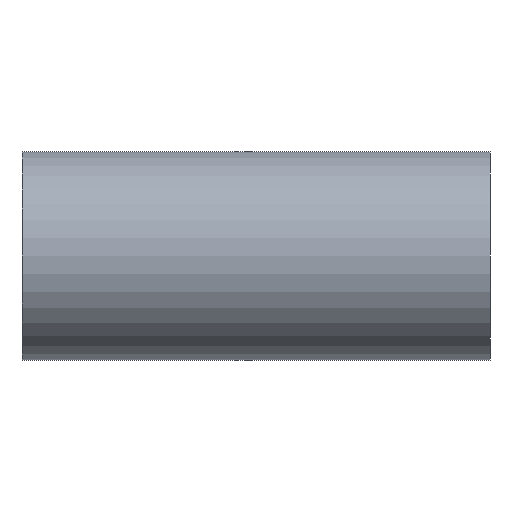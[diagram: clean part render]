
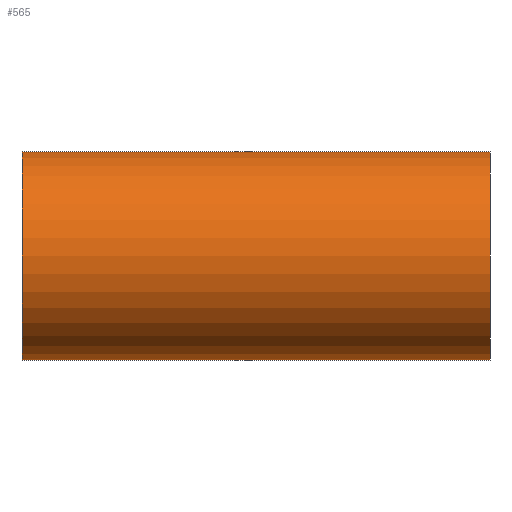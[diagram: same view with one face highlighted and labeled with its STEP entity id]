
A CAD part, front view. The second image highlights one B-rep face of the part: STEP entity #565.
In plain terms, the highlighted cylindrical face has radius 76.2 mm (diameter 152.4 mm), a partial arc.
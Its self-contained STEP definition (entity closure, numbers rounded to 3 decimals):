
#3 = EDGE_CURVE ( 'NONE', #400, #428, #236, .T. ) ;
#60 = DIRECTION ( 'NONE',  ( 0., 0., 1. ) ) ;
#112 = CARTESIAN_POINT ( 'NONE',  ( 386.526, 0., 76.2 ) ) ;
#116 = DIRECTION ( 'NONE',  ( -1., 0., 0. ) ) ;
#127 = DIRECTION ( 'NONE',  ( 0., 0., 1. ) ) ;
#159 = CARTESIAN_POINT ( 'NONE',  ( 386.526, 0., 0. ) ) ;
#161 = DIRECTION ( 'NONE',  ( -1., 0., 0. ) ) ;
#176 = DIRECTION ( 'NONE',  ( -1., 0., 0. ) ) ;
#181 = CARTESIAN_POINT ( 'NONE',  ( -171., 0., 0. ) ) ;
#189 = ORIENTED_EDGE ( 'NONE', *, *, #193, .T. ) ;
#193 = EDGE_CURVE ( 'NONE', #428, #376, #335, .T. ) ;
#204 = EDGE_LOOP ( 'NONE', ( #553, #459, #377, #189 ) ) ;
#206 = CARTESIAN_POINT ( 'NONE',  ( 386.526, 0., -76.2 ) ) ;
#224 = DIRECTION ( 'NONE',  ( 1., 0., 0. ) ) ;
#233 = DIRECTION ( 'NONE',  ( 0., 0., 1. ) ) ;
#236 = LINE ( 'NONE', #112, #279 ) ;
#240 = DIRECTION ( 'NONE',  ( -1., 0., 0. ) ) ;
#248 = EDGE_CURVE ( 'NONE', #411, #400, #502, .T. ) ;
#256 = VECTOR ( 'NONE', #240, 1000. ) ;
#266 = CARTESIAN_POINT ( 'NONE',  ( 171., 0., 0. ) ) ;
#279 = VECTOR ( 'NONE', #116, 1000. ) ;
#324 = EDGE_CURVE ( 'NONE', #411, #376, #550, .T. ) ;
#335 = CIRCLE ( 'NONE', #369, 76.2 ) ;
#369 = AXIS2_PLACEMENT_3D ( 'NONE', #181, #224, #60 ) ;
#376 = VERTEX_POINT ( 'NONE', #385 ) ;
#377 = ORIENTED_EDGE ( 'NONE', *, *, #3, .T. ) ;
#385 = CARTESIAN_POINT ( 'NONE',  ( -171., 0., -76.2 ) ) ;
#397 = AXIS2_PLACEMENT_3D ( 'NONE', #159, #161, #127 ) ;
#400 = VERTEX_POINT ( 'NONE', #514 ) ;
#411 = VERTEX_POINT ( 'NONE', #544 ) ;
#428 = VERTEX_POINT ( 'NONE', #556 ) ;
#459 = ORIENTED_EDGE ( 'NONE', *, *, #248, .T. ) ;
#460 = AXIS2_PLACEMENT_3D ( 'NONE', #266, #176, #233 ) ;
#502 = CIRCLE ( 'NONE', #460, 76.2 ) ;
#514 = CARTESIAN_POINT ( 'NONE',  ( 171., 0., 76.2 ) ) ;
#544 = CARTESIAN_POINT ( 'NONE',  ( 171., 0., -76.2 ) ) ;
#550 = LINE ( 'NONE', #206, #256 ) ;
#553 = ORIENTED_EDGE ( 'NONE', *, *, #324, .F. ) ;
#556 = CARTESIAN_POINT ( 'NONE',  ( -171., 0., 76.2 ) ) ;
#565 = ADVANCED_FACE ( 'NONE', ( #603 ), #583, .T. ) ;
#583 = CYLINDRICAL_SURFACE ( 'NONE', #397, 76.2 ) ;
#603 = FACE_OUTER_BOUND ( 'NONE', #204, .T. ) ;
